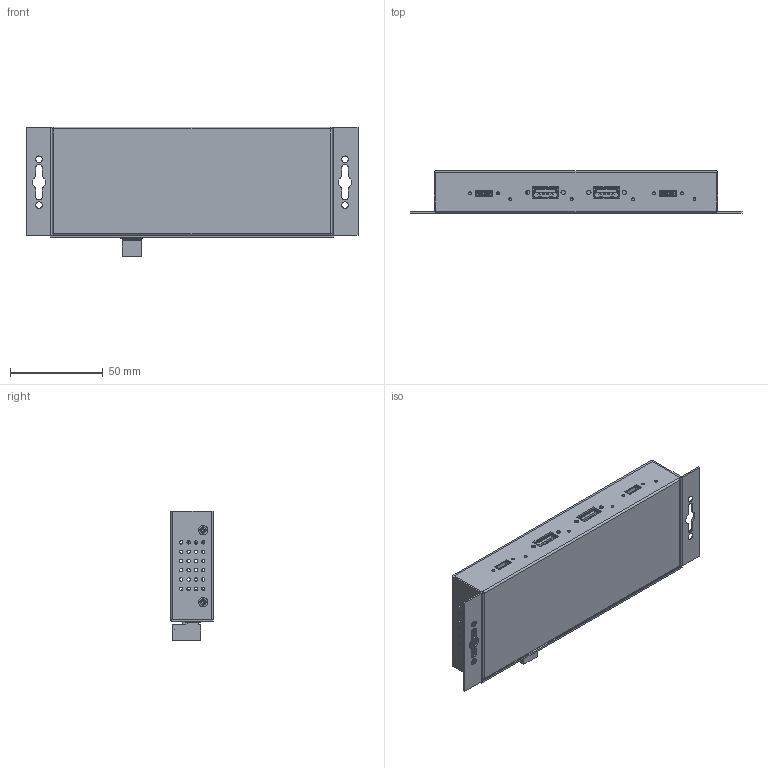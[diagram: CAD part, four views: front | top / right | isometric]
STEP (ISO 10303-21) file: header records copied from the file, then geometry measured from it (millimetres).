
FILE_DESCRIPTION(/* description */ (''),/* implementation_level */ '2;1');
FILE_NAME(/* name */ '/Users/leo/Desktop/Coolgear May/CG-4P31CHUB-M/CG-4P31CHUB-M Model3D LPV!.step',/* time_stamp */ '2021-05-18T16:35:47-04:00',/* author */ (''),/* organization */ (''),/* preprocessor_version */ 'ST-DEVELOPER v18.1',/* originating_system */ 'Autodesk Translation Framework v10.6.0.1341',/* authorisation */ '');
FILE_SCHEMA (('AUTOMOTIVE_DESIGN { 1 0 10303 214 3 1 1 }'));
Products named in the file (37): CG-4P31CHUB-M; Component1; 93090A547; 93090A547(Mirror); Component3; Component4; USB type C mounting pcb v3; USB type C mounting pcb v3_1; USB Type A Single Blue v1; Download_STP_692121030100_(rev1); USB Type A Single Blue v1_1; Download_STP_692121030100_(rev1)_1; housing1; pin1; housing2; pin2; pin; shielding; USB type C mounting pcb v3_2; TypeC(12); Connector green Phoenix 2 holes female 5.08 v1; Connector Volts Black plastic v2; Component1 (1); Component2; Component3 (1); Component4 (1); LED 3mm v4; 3mm_LED; led_energy (1); led_energy; led_pin.1.1.1 (1); led_pin.1.1.1; led_pin.2.1 (1); led_pin.2.1; Bolt M3X0.5 100Angle 5mmHead.5 China 120ang METRIC 18-8 SS FLAT HEAD 
PHIL MACHINE SCREW v2; Connector green phoenix 2pines male 5.08 v6; Component33
Assembly tree (61 placements, depth 5):
  CG-4P31CHUB-M
    Component1
      93090A547  x2
      93090A547(Mirror)  x2
    Component3
    Component4
    USB type C mounting pcb v3
      TypeC(12)
    USB type C mounting pcb v3_1
      TypeC(12)
    USB Type A Single Blue v1
      Download_STP_692121030100_(rev1)
        housing1
        pin1  x5
        housing2
        pin2  x2
        pin  x2
        shielding
    USB Type A Single Blue v1_1
      Download_STP_692121030100_(rev1)_1
        housing1
        pin1  x5
        housing2
        pin2  x2
        pin  x2
        shielding
    USB type C mounting pcb v3_2
      TypeC(12)
    Connector green Phoenix 2 holes female 5.08 v1
    Connector Volts Black plastic v2
      Component1 (1)
      Component2
      Component3 (1)
      Component4 (1)
    LED 3mm v4
      3mm_LED
        led_energy (1)
          led_energy
        led_pin.1.1.1 (1)
          led_pin.1.1.1
        led_pin.2.1 (1)
          led_pin.2.1
    Bolt M3X0.5 100Angle 5mmHead.5 China 120ang METRIC 18-8 SS FLAT HEAD 
PHIL MACHINE SCREW v2  x4
    Connector green phoenix 2pines male 5.08 v6
    Component33
Bounding box: 178.9 x 23 x 69.94 mm (x, y, z)
Volume: 61895.7 mm3; surface area: 110499.7 mm2
Topology: 3 solids, 23 shells, 4568 faces, 13056 edges, 8410 vertices
Faces by surface type: plane 3297, cylinder 1099, cone 86, bspline 53, sphere 19, torus 14
Full cylindrical faces by diameter (mm): 0.5 x6, 1.25 x2, 1.5 x8, 1.6 x2, 1.623 x8, 1.8 x48, 2.014 x1, 2.271 x8, 2.35 x16, 2.529 x4, 2.592 x1, 2.998 x1, 3 x24, 3.45 x1, 3.5 x4, 3.643 x1, 3.86 x2, 4.248 x1, 5.4 x4, 6.048 x2, 7.2 x1, 8.4 x1
Entity records: 156766 total; most frequent: CARTESIAN_POINT 34705, ORIENTED_EDGE 26090, DIRECTION 24235, EDGE_CURVE 13045, LINE 10377, VECTOR 10377, VERTEX_POINT 8410, AXIS2_PLACEMENT_3D 6929
